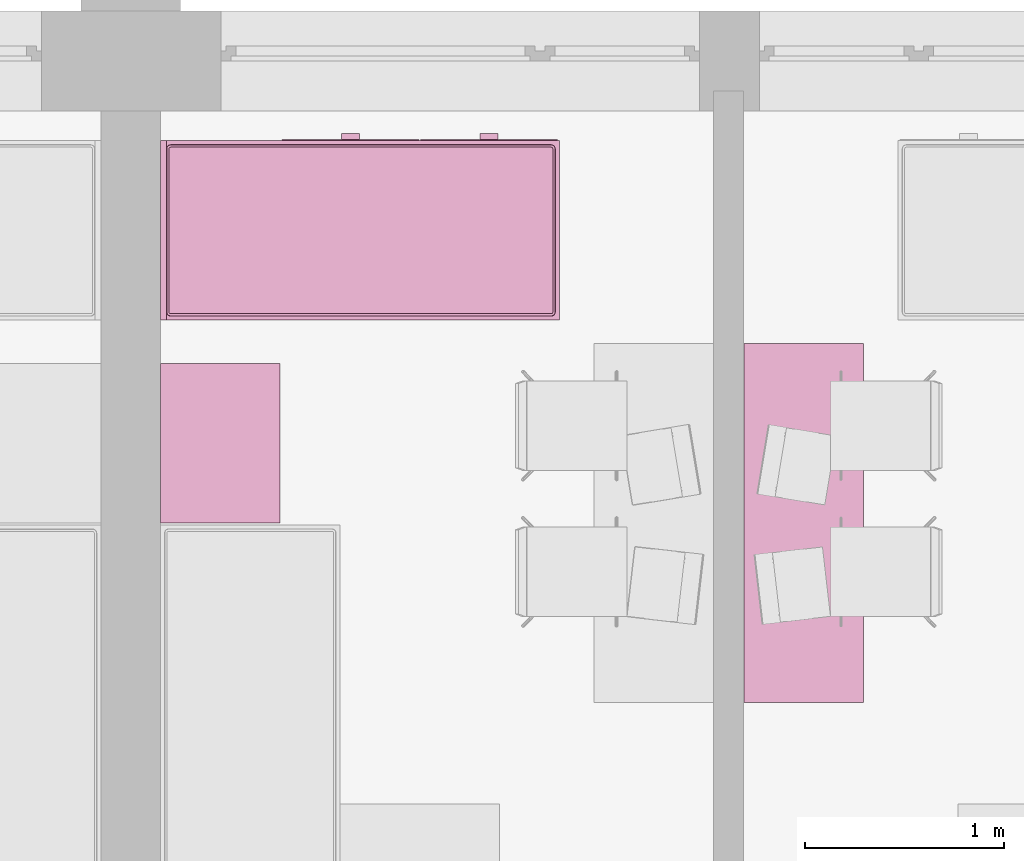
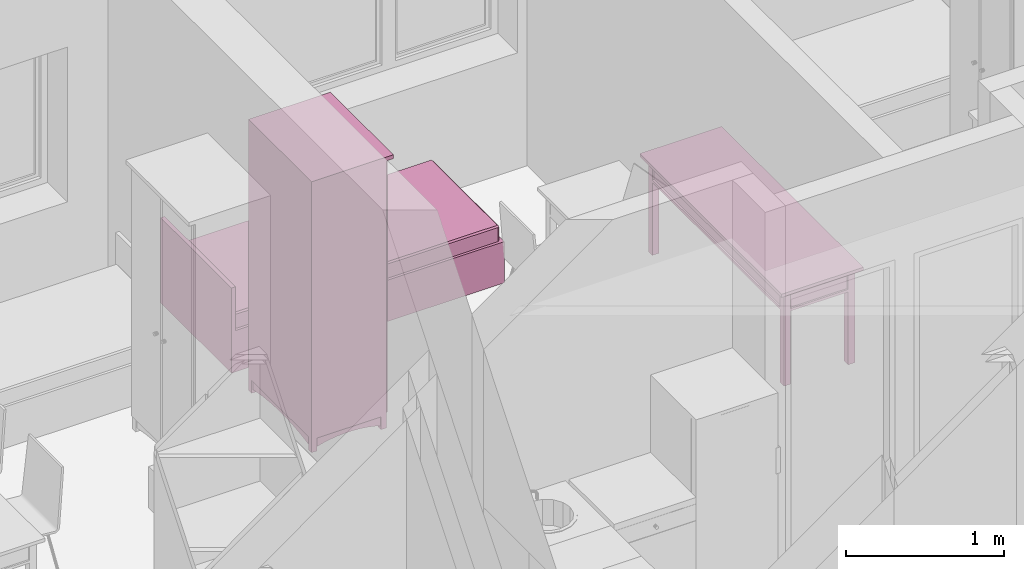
# One storey, part 138 of 165: 3 furnishings.
"""IFC2X3 building model written with IfcOpenShell, lengths in millimetres."""

from ifc_helpers import new_model, entity, si_unit, converted_unit, money_unit, direction, frame, origin_with_axes, place, context, subcontext, project, spatial, faceted_brep, source, transform, mapped, material, material_list, type_object, element, save


model = new_model("IFC2X3")

# Units and contexts
model_context = context("Model", 3, precision=1e-05, world=origin_with_axes(), true_north=direction((0.0, 1.0)))
body_context = subcontext(model_context, "Body", "Model", "MODEL_VIEW")
ifc_project = project(units=[si_unit("LENGTHUNIT", "METRE", prefix="MILLI"), si_unit("AREAUNIT", "SQUARE_METRE"), si_unit("VOLUMEUNIT", "CUBIC_METRE"), converted_unit("PLANEANGLEUNIT", "DEGREE", entity("IfcPlaneAngleMeasure", 0.0174532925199), si_unit("PLANEANGLEUNIT", "RADIAN"), dimensions=[0, 0, 0, 0, 0, 0, 0]), si_unit("SOLIDANGLEUNIT", "STERADIAN"), money_unit("USD"), converted_unit("TIMEUNIT", "Year", entity("IfcTimeMeasure", 31556926.0), si_unit("TIMEUNIT", "SECOND"), dimensions=[0, 0, 0, 0, 0, 0, 0]), si_unit("MASSUNIT", "GRAM"), si_unit("THERMODYNAMICTEMPERATUREUNIT", "DEGREE_CELSIUS"), si_unit("LUMINOUSINTENSITYUNIT", "LUMEN")], contexts=[model_context])

# Site, building, storey
site_placement = place(None, origin_with_axes())
site = spatial("IfcSite", under=ifc_project, at=site_placement, Name="Site", CompositionType="ELEMENT")
building_placement = place(site_placement, origin_with_axes())
building = spatial("IfcBuilding", under=site, at=building_placement, Name="Building", CompositionType="ELEMENT")
storey_placement = place(building_placement, frame((0.0, 0.0, 6300.0), z_axis=(0.0, 0.0, 1.0), x_axis=(1.0, 0.0, 0.0)))
storey = spatial("IfcBuildingStorey", under=building, at=storey_placement, Name="4KORRUS", CompositionType="ELEMENT", Elevation=6300.0)

# Furnishings
ifc_material = material(Name="Background")
ifc_material_list = material_list([ifc_material])
furnishing_element_type_1 = type_object("IfcFurnishingElementType", Name="Bed 19")
shared_shape_1 = source(origin_with_axes(), body_context, "Body", "Brep", [
    faceted_brep([(900.0, 1970.0, 0.0), (0.0, 1970.0, 0.0), (0.0, 2000.0, 0.0), (900.0, 2000.0, 0.0), (900.0, 1970.0, 660.0), (0.0, 1970.0, 660.0), (0.0, 2000.0, 660.0), (900.0, 2000.0, 660.0)], [[[0, 1, 2, 3]], [[1, 0, 4, 5]], [[2, 1, 5, 6]], [[3, 2, 6, 7]], [[0, 3, 7, 4]], [[5, 4, 7, 6]]]),
    faceted_brep([(900.0, 0.0, 0.0), (0.0, 0.0, 0.0), (0.0, 1970.0, 0.0), (900.0, 1970.0, 0.0), (900.0, 0.0, 320.0), (0.0, 0.0, 320.0), (0.0, 1970.0, 320.0), (900.0, 1970.0, 320.0)], [[[0, 1, 2, 3]], [[1, 0, 4, 5]], [[2, 1, 5, 6]], [[3, 2, 6, 7]], [[0, 3, 7, 4]], [[5, 4, 7, 6]]]),
    faceted_brep([(905.0, 10.0, 30.0), (900.0, 10.0, 30.0), (900.0, 695.0, 30.0), (905.0, 695.0, 30.0), (905.0, 10.0, 290.0), (900.0, 10.0, 290.0), (900.0, 695.0, 290.0), (905.0, 695.0, 290.0)], [[[0, 1, 2, 3]], [[1, 0, 4, 5]], [[2, 1, 5, 6]], [[3, 2, 6, 7]], [[0, 3, 7, 4]], [[5, 4, 7, 6]]]),
    faceted_brep([(935.0, 307.5, 150.0), (905.0, 307.5, 150.0), (905.0, 397.5, 150.0), (935.0, 397.5, 150.0), (935.0, 307.5, 170.0), (905.0, 307.5, 170.0), (905.0, 397.5, 170.0), (935.0, 397.5, 170.0)], [[[0, 1, 2, 3]], [[1, 0, 4, 5]], [[2, 1, 5, 6]], [[3, 2, 6, 7]], [[0, 3, 7, 4]], [[5, 4, 7, 6]]]),
    faceted_brep([(905.0, 705.0, 30.0), (900.0, 705.0, 30.0), (900.0, 1390.0, 30.0), (905.0, 1390.0, 30.0), (905.0, 705.0, 290.0), (900.0, 705.0, 290.0), (900.0, 1390.0, 290.0), (905.0, 1390.0, 290.0)], [[[0, 1, 2, 3]], [[1, 0, 4, 5]], [[2, 1, 5, 6]], [[3, 2, 6, 7]], [[0, 3, 7, 4]], [[5, 4, 7, 6]]]),
    faceted_brep([(935.0, 1002.5, 150.0), (905.0, 1002.5, 150.0), (905.0, 1092.5, 150.0), (935.0, 1092.5, 150.0), (935.0, 1002.5, 170.0), (905.0, 1002.5, 170.0), (905.0, 1092.5, 170.0), (935.0, 1092.5, 170.0)], [[[0, 1, 2, 3]], [[1, 0, 4, 5]], [[2, 1, 5, 6]], [[3, 2, 6, 7]], [[0, 3, 7, 4]], [[5, 4, 7, 6]]]),
    faceted_brep([(20.0, 40.0, 350.0), (20.0, 1950.0, 350.0), (21.522, 1957.654, 350.0), (25.858, 1964.142, 350.0), (32.346, 1968.478, 350.0), (40.0, 1970.0, 350.0), (860.0, 1970.0, 350.0), (867.654, 1968.478, 350.0), (874.142, 1964.142, 350.0), (878.478, 1957.654, 350.0), (880.0, 1950.0, 350.0), (880.0, 40.0, 350.0), (878.478, 32.346, 350.0), (874.142, 25.858, 350.0), (867.654, 21.522, 350.0), (860.0, 20.0, 350.0), (40.0, 20.0, 350.0), (32.346, 21.522, 350.0), (25.858, 25.858, 350.0), (21.522, 32.346, 350.0), (20.0, 40.0, 420.0), (20.0, 1950.0, 420.0), (21.522, 1957.654, 420.0), (25.858, 1964.142, 420.0), (32.346, 1968.478, 420.0), (40.0, 1970.0, 420.0), (860.0, 1970.0, 420.0), (867.654, 1968.478, 420.0), (874.142, 1964.142, 420.0), (878.478, 1957.654, 420.0), (880.0, 1950.0, 420.0), (880.0, 40.0, 420.0), (878.478, 32.346, 420.0), (874.142, 25.858, 420.0), (867.654, 21.522, 420.0), (860.0, 20.0, 420.0), (40.0, 20.0, 420.0), (32.346, 21.522, 420.0), (25.858, 25.858, 420.0), (21.522, 32.346, 420.0), (21.522, 40.15, 427.654), (21.522, 1949.85, 427.654), (22.956, 1957.06, 427.654), (26.955, 1963.045, 427.654), (32.94, 1967.044, 427.654), (40.15, 1968.478, 427.654), (859.85, 1968.478, 427.654), (867.06, 1967.044, 427.654), (873.045, 1963.045, 427.654), (877.044, 1957.06, 427.654), (878.478, 1949.85, 427.654), (878.478, 40.15, 427.654), (877.044, 32.94, 427.654), (873.045, 26.955, 427.654), (867.06, 22.956, 427.654), (859.85, 21.522, 427.654), (40.15, 21.522, 427.654), (32.94, 22.956, 427.654), (26.955, 26.955, 427.654), (22.956, 32.94, 427.654), (32.346, 41.216, 438.478), (32.346, 1948.784, 438.478), (33.152, 1952.836, 438.478), (34.759, 1955.241, 438.478), (37.164, 1956.848, 438.478), (41.216, 1957.654, 438.478), (858.784, 1957.654, 438.478), (862.836, 1956.848, 438.478), (865.241, 1955.241, 438.478), (866.848, 1952.836, 438.478), (867.654, 1948.784, 438.478), (867.654, 41.216, 438.478), (866.848, 37.164, 438.478), (865.241, 34.759, 438.478), (862.836, 33.152, 438.478), (858.784, 32.346, 438.478), (41.216, 32.346, 438.478), (37.164, 33.152, 438.478), (34.759, 34.759, 438.478), (33.152, 37.164, 438.478), (40.0, 41.97, 440.0), (40.0, 1948.03, 440.0), (40.327, 1949.673, 440.0), (40.0, 1950.0, 439.924), (41.97, 1950.0, 440.0), (858.03, 1950.0, 440.0), (859.673, 1949.673, 440.0), (860.0, 1950.0, 439.924), (860.0, 1948.03, 440.0), (860.0, 41.97, 440.0), (859.673, 40.327, 440.0), (860.0, 40.0, 439.924), (858.03, 40.0, 440.0), (41.97, 40.0, 440.0), (40.327, 40.327, 440.0), (40.0, 40.0, 439.924)], [[[0, 1, 2, 3, 4, 5, 6, 7, 8, 9, 10, 11, 12, 13, 14, 15, 16, 17, 18, 19]], [[1, 0, 20, 21]], [[2, 1, 21, 22]], [[3, 2, 22, 23]], [[4, 3, 23, 24]], [[5, 4, 24, 25]], [[6, 5, 25, 26]], [[7, 6, 26, 27]], [[8, 7, 27, 28]], [[9, 8, 28, 29]], [[10, 9, 29, 30]], [[11, 10, 30, 31]], [[12, 11, 31, 32]], [[13, 12, 32, 33]], [[14, 13, 33, 34]], [[15, 14, 34, 35]], [[16, 15, 35, 36]], [[17, 16, 36, 37]], [[18, 17, 37, 38]], [[19, 18, 38, 39]], [[0, 19, 39, 20]], [[21, 20, 40, 41]], [[22, 21, 41, 42]], [[23, 22, 42, 43]], [[24, 23, 43, 44]], [[25, 24, 44, 45]], [[26, 25, 45, 46]], [[27, 26, 46, 47]], [[28, 27, 47, 48]], [[29, 28, 48, 49]], [[30, 29, 49, 50]], [[31, 30, 50, 51]], [[32, 31, 51, 52]], [[33, 32, 52, 53]], [[34, 33, 53, 54]], [[35, 34, 54, 55]], [[36, 35, 55, 56]], [[37, 36, 56, 57]], [[38, 37, 57, 58]], [[39, 38, 58, 59]], [[20, 39, 59, 40]], [[41, 40, 60, 61]], [[42, 41, 61, 62]], [[43, 42, 62, 63]], [[44, 43, 63, 64]], [[45, 44, 64, 65]], [[46, 45, 65, 66]], [[47, 46, 66, 67]], [[48, 47, 67, 68]], [[49, 48, 68, 69]], [[50, 49, 69, 70]], [[51, 50, 70, 71]], [[52, 51, 71, 72]], [[53, 52, 72, 73]], [[54, 53, 73, 74]], [[55, 54, 74, 75]], [[56, 55, 75, 76]], [[57, 56, 76, 77]], [[58, 57, 77, 78]], [[59, 58, 78, 79]], [[40, 59, 79, 60]], [[61, 60, 80, 81]], [[62, 61, 81, 82, 83]], [[63, 62, 83]], [[64, 63, 83]], [[65, 64, 83, 82, 84]], [[66, 65, 84, 85]], [[67, 66, 85, 86, 87]], [[68, 67, 87]], [[69, 68, 87]], [[70, 69, 87, 86, 88]], [[71, 70, 88, 89]], [[72, 71, 89, 90, 91]], [[73, 72, 91]], [[74, 73, 91]], [[75, 74, 91, 90, 92]], [[76, 75, 92, 93]], [[77, 76, 93, 94, 95]], [[78, 77, 95]], [[79, 78, 95]], [[60, 79, 95, 94, 80]], [[81, 80, 94, 93, 92, 90, 89, 88, 86, 85, 84, 82]]]),
    faceted_brep([(20.0, 40.0, 350.0), (21.522, 32.346, 350.0), (25.858, 25.858, 350.0), (32.346, 21.522, 350.0), (40.0, 20.0, 350.0), (860.0, 20.0, 350.0), (867.654, 21.522, 350.0), (874.142, 25.858, 350.0), (878.478, 32.346, 350.0), (880.0, 40.0, 350.0), (880.0, 1950.0, 350.0), (878.478, 1957.654, 350.0), (874.142, 1964.142, 350.0), (867.654, 1968.478, 350.0), (860.0, 1970.0, 350.0), (40.0, 1970.0, 350.0), (32.346, 1968.478, 350.0), (25.858, 1964.142, 350.0), (21.522, 1957.654, 350.0), (20.0, 1950.0, 350.0), (20.0, 40.0, 320.0), (21.522, 32.346, 320.0), (25.858, 25.858, 320.0), (32.346, 21.522, 320.0), (40.0, 20.0, 320.0), (860.0, 20.0, 320.0), (867.654, 21.522, 320.0), (874.142, 25.858, 320.0), (878.478, 32.346, 320.0), (880.0, 40.0, 320.0), (880.0, 1950.0, 320.0), (878.478, 1957.654, 320.0), (874.142, 1964.142, 320.0), (867.654, 1968.478, 320.0), (860.0, 1970.0, 320.0), (40.0, 1970.0, 320.0), (32.346, 1968.478, 320.0), (25.858, 1964.142, 320.0), (21.522, 1957.654, 320.0), (20.0, 1950.0, 320.0)], [[[0, 1, 2, 3, 4, 5, 6, 7, 8, 9, 10, 11, 12, 13, 14, 15, 16, 17, 18, 19]], [[0, 20, 21, 1]], [[1, 21, 22, 2]], [[2, 22, 23, 3]], [[3, 23, 24, 4]], [[4, 24, 25, 5]], [[5, 25, 26, 6]], [[6, 26, 27, 7]], [[7, 27, 28, 8]], [[8, 28, 29, 9]], [[9, 29, 30, 10]], [[10, 30, 31, 11]], [[11, 31, 32, 12]], [[12, 32, 33, 13]], [[13, 33, 34, 14]], [[14, 34, 35, 15]], [[15, 35, 36, 16]], [[16, 36, 37, 17]], [[17, 37, 38, 18]], [[18, 38, 39, 19]], [[19, 39, 20, 0]], [[20, 39, 38, 37, 36, 35, 34, 33, 32, 31, 30, 29, 28, 27, 26, 25, 24, 23, 22, 21]]]),
])
furnishing_1_placement = place(storey_placement, frame((8009.70329669, -6189.6041535, 0.0), z_axis=(0.0, 0.0, 1.0), x_axis=(0.0, 1.0, 0.0)))
element("IfcFurnishingElement", 1, at=furnishing_1_placement, inside=storey, type_object=furnishing_element_type_1, material=ifc_material_list, Name="FU - 013", context=body_context, shape_type="MappedRepresentation", body=[
    mapped(shared_shape_1, transform((0.0, 0.0, 0.0))),
])
furnishing_element_type_2 = type_object("IfcFurnishingElementType", Name="Cupboard 19")
shared_shape_2 = source(origin_with_axes(), body_context, "Body", "Brep", [
    faceted_brep([(780.0, 600.0, 120.0), (780.0, 600.0, 2050.0), (780.0, 580.0, 2050.0), (780.0, 580.0, 120.0), (20.0, 600.0, 120.0), (20.0, 600.0, 2050.0), (20.0, 580.0, 2050.0), (20.0, 580.0, 120.0)], [[[0, 1, 2, 3]], [[4, 5, 1, 0]], [[1, 5, 6, 2]], [[3, 2, 6, 7]], [[0, 3, 7, 4]], [[7, 6, 5, 4]]]),
    faceted_brep([(0.0, 50.0, 100.0), (0.0, 600.0, 100.0), (20.0, 600.0, 100.0), (20.0, 50.0, 100.0), (0.0, 50.0, 2070.0), (0.0, 600.0, 2070.0), (20.0, 600.0, 2070.0), (20.0, 50.0, 2070.0)], [[[0, 1, 2, 3]], [[0, 4, 5, 1]], [[1, 5, 6, 2]], [[2, 6, 7, 3]], [[3, 7, 4, 0]], [[7, 6, 5, 4]]]),
    faceted_brep([(780.0, 50.0, 100.0), (780.0, 600.0, 100.0), (800.0, 600.0, 100.0), (800.0, 50.0, 100.0), (780.0, 50.0, 2070.0), (780.0, 600.0, 2070.0), (800.0, 600.0, 2070.0), (800.0, 50.0, 2070.0)], [[[0, 1, 2, 3]], [[0, 4, 5, 1]], [[1, 5, 6, 2]], [[2, 6, 7, 3]], [[3, 7, 4, 0]], [[7, 6, 5, 4]]]),
    faceted_brep([(20.0, 50.0, 100.0), (20.0, 600.0, 100.0), (780.0, 600.0, 100.0), (780.0, 50.0, 100.0), (20.0, 50.0, 120.0), (20.0, 600.0, 120.0), (780.0, 600.0, 120.0), (780.0, 50.0, 120.0)], [[[0, 1, 2, 3]], [[0, 4, 5, 1]], [[1, 5, 6, 2]], [[2, 6, 7, 3]], [[3, 7, 4, 0]], [[7, 6, 5, 4]]]),
    faceted_brep([(20.0, 50.0, 2050.0), (20.0, 600.0, 2050.0), (780.0, 600.0, 2050.0), (780.0, 50.0, 2050.0), (20.0, 50.0, 2070.0), (20.0, 600.0, 2070.0), (780.0, 600.0, 2070.0), (780.0, 50.0, 2070.0)], [[[0, 1, 2, 3]], [[0, 4, 5, 1]], [[1, 5, 6, 2]], [[2, 6, 7, 3]], [[3, 7, 4, 0]], [[7, 6, 5, 4]]]),
    faceted_brep([(0.0, 600.0, 2070.0), (0.0, 0.0, 2070.0), (0.0, 0.0, 2100.0), (0.0, 600.0, 2100.0), (800.0, 600.0, 2070.0), (800.0, 0.0, 2070.0), (800.0, 0.0, 2100.0), (800.0, 600.0, 2100.0)], [[[0, 1, 2, 3]], [[0, 4, 5, 1]], [[1, 5, 6, 2]], [[3, 2, 6, 7]], [[4, 0, 3, 7]], [[5, 4, 7, 6]]]),
    faceted_brep([(760.0, 590.0, 25.0), (760.0, 570.0, 25.0), (640.962, 570.0, 45.8), (640.962, 590.0, 45.8), (760.0, 590.0, 100.0), (760.0, 570.0, 100.0), (40.0, 570.0, 100.0), (40.0, 570.0, 25.0), (159.038, 570.0, 45.8), (279.23, 570.0, 58.32), (400.0, 570.0, 62.5), (520.77, 570.0, 58.32), (520.77, 590.0, 58.32), (400.0, 590.0, 62.5), (279.23, 590.0, 58.32), (159.038, 590.0, 45.8), (40.0, 590.0, 25.0), (40.0, 590.0, 100.0)], [[[0, 1, 2, 3]], [[4, 5, 1, 0]], [[1, 5, 6, 7, 8, 9, 10, 11, 2]], [[3, 2, 11, 12]], [[0, 3, 12, 13, 14, 15, 16, 17, 4]], [[17, 6, 5, 4]], [[16, 7, 6, 17]], [[15, 8, 7, 16]], [[14, 9, 8, 15]], [[13, 10, 9, 14]], [[12, 11, 10, 13]]]),
    faceted_brep([(760.0, 80.0, 25.0), (760.0, 60.0, 25.0), (640.962, 60.0, 45.8), (640.962, 80.0, 45.8), (760.0, 80.0, 100.0), (760.0, 60.0, 100.0), (40.0, 60.0, 100.0), (40.0, 60.0, 25.0), (159.038, 60.0, 45.8), (279.23, 60.0, 58.32), (400.0, 60.0, 62.5), (520.77, 60.0, 58.32), (520.77, 80.0, 58.32), (400.0, 80.0, 62.5), (279.23, 80.0, 58.32), (159.038, 80.0, 45.8), (40.0, 80.0, 25.0), (40.0, 80.0, 100.0)], [[[0, 1, 2, 3]], [[4, 5, 1, 0]], [[1, 5, 6, 7, 8, 9, 10, 11, 2]], [[3, 2, 11, 12]], [[0, 3, 12, 13, 14, 15, 16, 17, 4]], [[17, 6, 5, 4]], [[16, 7, 6, 17]], [[15, 8, 7, 16]], [[14, 9, 8, 15]], [[13, 10, 9, 14]], [[12, 11, 10, 13]]]),
    faceted_brep([(790.0, 90.0, 25.0), (770.0, 90.0, 25.0), (770.0, 141.266, 38.072), (790.0, 141.266, 38.072), (790.0, 90.0, 100.0), (770.0, 90.0, 100.0), (770.0, 560.0, 100.0), (770.0, 560.0, 25.0), (770.0, 508.734, 38.072), (770.0, 456.752, 47.92), (770.0, 404.257, 54.508), (770.0, 351.453, 57.808), (770.0, 298.547, 57.808), (770.0, 245.743, 54.508), (770.0, 193.248, 47.92), (790.0, 193.248, 47.92), (790.0, 245.743, 54.508), (790.0, 298.547, 57.808), (790.0, 351.453, 57.808), (790.0, 404.257, 54.508), (790.0, 456.752, 47.92), (790.0, 508.734, 38.072), (790.0, 560.0, 25.0), (790.0, 560.0, 100.0)], [[[0, 1, 2, 3]], [[4, 5, 1, 0]], [[1, 5, 6, 7, 8, 9, 10, 11, 12, 13, 14, 2]], [[3, 2, 14, 15]], [[0, 3, 15, 16, 17, 18, 19, 20, 21, 22, 23, 4]], [[23, 6, 5, 4]], [[22, 7, 6, 23]], [[21, 8, 7, 22]], [[20, 9, 8, 21]], [[19, 10, 9, 20]], [[18, 11, 10, 19]], [[17, 12, 11, 18]], [[16, 13, 12, 17]], [[15, 14, 13, 16]]]),
    faceted_brep([(30.0, 90.0, 25.0), (10.0, 90.0, 25.0), (10.0, 141.266, 38.072), (30.0, 141.266, 38.072), (30.0, 90.0, 100.0), (10.0, 90.0, 100.0), (10.0, 560.0, 100.0), (10.0, 560.0, 25.0), (10.0, 508.734, 38.072), (10.0, 456.752, 47.92), (10.0, 404.257, 54.508), (10.0, 351.453, 57.808), (10.0, 298.547, 57.808), (10.0, 245.743, 54.508), (10.0, 193.248, 47.92), (30.0, 193.248, 47.92), (30.0, 245.743, 54.508), (30.0, 298.547, 57.808), (30.0, 351.453, 57.808), (30.0, 404.257, 54.508), (30.0, 456.752, 47.92), (30.0, 508.734, 38.072), (30.0, 560.0, 25.0), (30.0, 560.0, 100.0)], [[[0, 1, 2, 3]], [[4, 5, 1, 0]], [[1, 5, 6, 7, 8, 9, 10, 11, 12, 13, 14, 2]], [[3, 2, 14, 15]], [[0, 3, 15, 16, 17, 18, 19, 20, 21, 22, 23, 4]], [[23, 6, 5, 4]], [[22, 7, 6, 23]], [[21, 8, 7, 22]], [[20, 9, 8, 21]], [[19, 10, 9, 20]], [[18, 11, 10, 19]], [[17, 12, 11, 18]], [[16, 13, 12, 17]], [[15, 14, 13, 16]]]),
    faceted_brep([(760.0, 560.0, 0.0), (760.0, 560.0, 100.0), (760.0, 600.0, 100.0), (760.0, 600.0, 0.0), (800.0, 560.0, 0.0), (800.0, 560.0, 100.0), (800.0, 600.0, 100.0), (800.0, 600.0, 0.0)], [[[0, 1, 2, 3]], [[4, 5, 1, 0]], [[1, 5, 6, 2]], [[3, 2, 6, 7]], [[0, 3, 7, 4]], [[7, 6, 5, 4]]]),
    faceted_brep([(0.0, 560.0, 0.0), (0.0, 560.0, 100.0), (0.0, 600.0, 100.0), (0.0, 600.0, 0.0), (40.0, 560.0, 0.0), (40.0, 560.0, 100.0), (40.0, 600.0, 100.0), (40.0, 600.0, 0.0)], [[[0, 1, 2, 3]], [[4, 5, 1, 0]], [[1, 5, 6, 2]], [[3, 2, 6, 7]], [[0, 3, 7, 4]], [[7, 6, 5, 4]]]),
    faceted_brep([(760.0, 50.0, 0.0), (760.0, 50.0, 100.0), (760.0, 90.0, 100.0), (760.0, 90.0, 0.0), (800.0, 50.0, 0.0), (800.0, 50.0, 100.0), (800.0, 90.0, 100.0), (800.0, 90.0, 0.0)], [[[0, 1, 2, 3]], [[4, 5, 1, 0]], [[1, 5, 6, 2]], [[3, 2, 6, 7]], [[0, 3, 7, 4]], [[7, 6, 5, 4]]]),
    faceted_brep([(0.0, 50.0, 0.0), (0.0, 50.0, 100.0), (0.0, 90.0, 100.0), (0.0, 90.0, 0.0), (40.0, 50.0, 0.0), (40.0, 50.0, 100.0), (40.0, 90.0, 100.0), (40.0, 90.0, 0.0)], [[[0, 1, 2, 3]], [[4, 5, 1, 0]], [[1, 5, 6, 2]], [[3, 2, 6, 7]], [[0, 3, 7, 4]], [[7, 6, 5, 4]]]),
    faceted_brep([(780.0, 580.0, 587.5), (780.0, 580.0, 607.5), (780.0, 50.0, 607.5), (780.0, 50.0, 587.5), (20.0, 580.0, 587.5), (20.0, 580.0, 607.5), (20.0, 50.0, 607.5), (20.0, 50.0, 587.5)], [[[0, 1, 2, 3]], [[4, 5, 1, 0]], [[1, 5, 6, 2]], [[3, 2, 6, 7]], [[0, 3, 7, 4]], [[7, 6, 5, 4]]]),
    faceted_brep([(780.0, 580.0, 1075.0), (780.0, 580.0, 1095.0), (780.0, 50.0, 1095.0), (780.0, 50.0, 1075.0), (20.0, 580.0, 1075.0), (20.0, 580.0, 1095.0), (20.0, 50.0, 1095.0), (20.0, 50.0, 1075.0)], [[[0, 1, 2, 3]], [[4, 5, 1, 0]], [[1, 5, 6, 2]], [[3, 2, 6, 7]], [[0, 3, 7, 4]], [[7, 6, 5, 4]]]),
    faceted_brep([(780.0, 580.0, 1562.5), (780.0, 580.0, 1582.5), (780.0, 50.0, 1582.5), (780.0, 50.0, 1562.5), (20.0, 580.0, 1562.5), (20.0, 580.0, 1582.5), (20.0, 50.0, 1582.5), (20.0, 50.0, 1562.5)], [[[0, 1, 2, 3]], [[4, 5, 1, 0]], [[1, 5, 6, 2]], [[3, 2, 6, 7]], [[0, 3, 7, 4]], [[7, 6, 5, 4]]]),
    faceted_brep([(789.5, 50.0, 110.5), (400.5, 50.0, 110.5), (400.5, 50.0, 2059.5), (789.5, 50.0, 2059.5), (789.5, 40.0, 110.5), (400.5, 40.0, 110.5), (400.5, 40.0, 2059.5), (789.5, 40.0, 2059.5), (779.5, 30.0, 120.5), (410.5, 30.0, 120.5), (410.5, 30.0, 2049.5), (779.5, 30.0, 2049.5)], [[[0, 1, 2, 3]], [[0, 4, 5, 1]], [[1, 5, 6, 2]], [[2, 6, 7, 3]], [[3, 7, 4, 0]], [[4, 8, 9, 5]], [[5, 9, 10, 6]], [[6, 10, 11, 7]], [[7, 11, 8, 4]], [[10, 9, 8, 11]]]),
    faceted_brep([(399.5, 50.0, 110.5), (10.5, 50.0, 110.5), (10.5, 50.0, 2059.5), (399.5, 50.0, 2059.5), (399.5, 40.0, 110.5), (10.5, 40.0, 110.5), (10.5, 40.0, 2059.5), (399.5, 40.0, 2059.5), (389.5, 30.0, 120.5), (20.5, 30.0, 120.5), (20.5, 30.0, 2049.5), (389.5, 30.0, 2049.5)], [[[0, 1, 2, 3]], [[0, 4, 5, 1]], [[1, 5, 6, 2]], [[2, 6, 7, 3]], [[3, 7, 4, 0]], [[4, 8, 9, 5]], [[5, 9, 10, 6]], [[6, 10, 11, 7]], [[7, 11, 8, 4]], [[10, 9, 8, 11]]]),
    faceted_brep([(339.608, 30.0, 954.0), (338.0, 30.0, 960.0), (339.608, 30.0, 966.0), (344.0, 30.0, 970.392), (350.0, 30.0, 972.0), (356.0, 30.0, 970.392), (360.392, 30.0, 966.0), (362.0, 30.0, 960.0), (360.392, 30.0, 954.0), (356.0, 30.0, 949.608), (350.0, 30.0, 948.0), (344.0, 30.0, 949.608), (339.608, 5.0, 954.0), (338.0, 5.0, 960.0), (339.608, 5.0, 966.0), (344.0, 5.0, 970.392), (350.0, 5.0, 972.0), (356.0, 5.0, 970.392), (360.392, 5.0, 966.0), (362.0, 5.0, 960.0), (360.392, 5.0, 954.0), (356.0, 5.0, 949.608), (350.0, 5.0, 948.0), (344.0, 5.0, 949.608)], [[[0, 1, 2, 3, 4, 5, 6, 7, 8, 9, 10, 11]], [[0, 12, 13, 1]], [[1, 13, 14, 2]], [[2, 14, 15, 3]], [[3, 15, 16, 4]], [[4, 16, 17, 5]], [[5, 17, 18, 6]], [[6, 18, 19, 7]], [[7, 19, 20, 8]], [[8, 20, 21, 9]], [[9, 21, 22, 10]], [[10, 22, 23, 11]], [[11, 23, 12, 0]], [[12, 23, 22, 21, 20, 19, 18, 17, 16, 15, 14, 13]]]),
    faceted_brep([(460.392, 30.0, 954.0), (456.0, 30.0, 949.608), (450.0, 30.0, 948.0), (444.0, 30.0, 949.608), (439.608, 30.0, 954.0), (438.0, 30.0, 960.0), (439.608, 30.0, 966.0), (444.0, 30.0, 970.392), (450.0, 30.0, 972.0), (456.0, 30.0, 970.392), (460.392, 30.0, 966.0), (462.0, 30.0, 960.0), (460.392, 5.0, 954.0), (456.0, 5.0, 949.608), (450.0, 5.0, 948.0), (444.0, 5.0, 949.608), (439.608, 5.0, 954.0), (438.0, 5.0, 960.0), (439.608, 5.0, 966.0), (444.0, 5.0, 970.392), (450.0, 5.0, 972.0), (456.0, 5.0, 970.392), (460.392, 5.0, 966.0), (462.0, 5.0, 960.0)], [[[0, 1, 2, 3, 4, 5, 6, 7, 8, 9, 10, 11]], [[1, 0, 12, 13]], [[2, 1, 13, 14]], [[3, 2, 14, 15]], [[4, 3, 15, 16]], [[5, 4, 16, 17]], [[6, 5, 17, 18]], [[7, 6, 18, 19]], [[8, 7, 19, 20]], [[9, 8, 20, 21]], [[10, 9, 21, 22]], [[11, 10, 22, 23]], [[0, 11, 23, 12]], [[12, 23, 22, 21, 20, 19, 18, 17, 16, 15, 14, 13]]]),
])
furnishing_2_placement = place(storey_placement, frame((6609.70329669, -7206.41563755, 0.0), z_axis=(0.0, 0.0, 1.0), x_axis=(0.0, 1.0, 0.0)))
element("IfcFurnishingElement", 2, at=furnishing_2_placement, inside=storey, type_object=furnishing_element_type_2, material=ifc_material_list, Name="FU - 014", context=body_context, shape_type="MappedRepresentation", body=[
    mapped(shared_shape_2, transform((0.0, 0.0, 0.0))),
])
furnishing_element_type_3 = type_object("IfcFurnishingElementType", Name="Rectangular Table 01 19")
shared_shape_3 = source(origin_with_axes(), body_context, "Body", "Brep", [
    faceted_brep([(-90.0, 40.0, 0.0), (-90.0, 90.0, 0.0), (-40.0, 90.0, 0.0), (-40.0, 40.0, 0.0), (-90.0, 40.0, 725.0), (-90.0, 90.0, 725.0), (-40.0, 90.0, 725.0), (-40.0, 40.0, 725.0)], [[[0, 1, 2, 3]], [[0, 4, 5, 1]], [[1, 5, 6, 2]], [[2, 6, 7, 3]], [[3, 7, 4, 0]], [[7, 6, 5, 4]]]),
    faceted_brep([(-1760.0, 40.0, 0.0), (-1760.0, 90.0, 0.0), (-1710.0, 90.0, 0.0), (-1710.0, 40.0, 0.0), (-1760.0, 40.0, 725.0), (-1760.0, 90.0, 725.0), (-1710.0, 90.0, 725.0), (-1710.0, 40.0, 725.0)], [[[0, 1, 2, 3]], [[0, 4, 5, 1]], [[1, 5, 6, 2]], [[2, 6, 7, 3]], [[3, 7, 4, 0]], [[7, 6, 5, 4]]]),
    faceted_brep([(-90.0, 510.0, 0.0), (-90.0, 560.0, 0.0), (-40.0, 560.0, 0.0), (-40.0, 510.0, 0.0), (-90.0, 510.0, 725.0), (-90.0, 560.0, 725.0), (-40.0, 560.0, 725.0), (-40.0, 510.0, 725.0)], [[[0, 1, 2, 3]], [[0, 4, 5, 1]], [[1, 5, 6, 2]], [[2, 6, 7, 3]], [[3, 7, 4, 0]], [[7, 6, 5, 4]]]),
    faceted_brep([(-1760.0, 510.0, 0.0), (-1760.0, 560.0, 0.0), (-1710.0, 560.0, 0.0), (-1710.0, 510.0, 0.0), (-1760.0, 510.0, 725.0), (-1760.0, 560.0, 725.0), (-1710.0, 560.0, 725.0), (-1710.0, 510.0, 725.0)], [[[0, 1, 2, 3]], [[0, 4, 5, 1]], [[1, 5, 6, 2]], [[2, 6, 7, 3]], [[3, 7, 4, 0]], [[7, 6, 5, 4]]]),
    faceted_brep([(-1760.0, 40.0, 565.0), (-1760.0, 560.0, 565.0), (-40.0, 560.0, 565.0), (-40.0, 40.0, 565.0), (-1760.0, 40.0, 585.0), (-1760.0, 560.0, 585.0), (-40.0, 560.0, 585.0), (-40.0, 40.0, 585.0)], [[[0, 1, 2, 3]], [[0, 4, 5, 1]], [[1, 5, 6, 2]], [[2, 6, 7, 3]], [[3, 7, 4, 0]], [[7, 6, 5, 4]]]),
    faceted_brep([(-1710.0, 52.5, 585.0), (-1710.0, 77.5, 585.0), (-90.0, 77.5, 585.0), (-90.0, 52.5, 585.0), (-1710.0, 52.5, 745.0), (-1710.0, 77.5, 745.0), (-90.0, 77.5, 745.0), (-90.0, 52.5, 745.0)], [[[0, 1, 2, 3]], [[0, 4, 5, 1]], [[1, 5, 6, 2]], [[2, 6, 7, 3]], [[3, 7, 4, 0]], [[7, 6, 5, 4]]]),
    faceted_brep([(-77.5, 90.0, 585.0), (-77.5, 510.0, 585.0), (-52.5, 510.0, 585.0), (-52.5, 90.0, 585.0), (-77.5, 90.0, 745.0), (-77.5, 510.0, 745.0), (-52.5, 510.0, 745.0), (-52.5, 90.0, 745.0)], [[[0, 1, 2, 3]], [[0, 4, 5, 1]], [[1, 5, 6, 2]], [[2, 6, 7, 3]], [[3, 7, 4, 0]], [[7, 6, 5, 4]]]),
    faceted_brep([(-90.0, 547.5, 585.0), (-90.0, 522.5, 585.0), (-1710.0, 522.5, 585.0), (-1710.0, 547.5, 585.0), (-90.0, 547.5, 745.0), (-90.0, 522.5, 745.0), (-1710.0, 522.5, 745.0), (-1710.0, 547.5, 745.0)], [[[0, 1, 2, 3]], [[0, 4, 5, 1]], [[1, 5, 6, 2]], [[2, 6, 7, 3]], [[3, 7, 4, 0]], [[7, 6, 5, 4]]]),
    faceted_brep([(-1722.5, 510.0, 585.0), (-1722.5, 90.0, 585.0), (-1747.5, 90.0, 585.0), (-1747.5, 510.0, 585.0), (-1722.5, 510.0, 745.0), (-1722.5, 90.0, 745.0), (-1747.5, 90.0, 745.0), (-1747.5, 510.0, 745.0)], [[[0, 1, 2, 3]], [[0, 4, 5, 1]], [[1, 5, 6, 2]], [[2, 6, 7, 3]], [[3, 7, 4, 0]], [[7, 6, 5, 4]]]),
    faceted_brep([(-897.5, 40.0, 585.0), (-897.5, 60.0, 585.0), (-95.0, 60.0, 585.0), (-95.0, 40.0, 585.0), (-897.5, 40.0, 745.0), (-897.5, 60.0, 745.0), (-95.0, 60.0, 745.0), (-95.0, 40.0, 745.0)], [[[0, 1, 2, 3]], [[0, 4, 5, 1]], [[1, 5, 6, 2]], [[2, 6, 7, 3]], [[3, 7, 4, 0]], [[7, 6, 5, 4]]]),
    faceted_brep([(-1705.0, 40.0, 585.0), (-1705.0, 60.0, 585.0), (-902.5, 60.0, 585.0), (-902.5, 40.0, 585.0), (-1705.0, 40.0, 745.0), (-1705.0, 60.0, 745.0), (-902.5, 60.0, 745.0), (-902.5, 40.0, 745.0)], [[[0, 1, 2, 3]], [[0, 4, 5, 1]], [[1, 5, 6, 2]], [[2, 6, 7, 3]], [[3, 7, 4, 0]], [[7, 6, 5, 4]]]),
    faceted_brep([(-504.91, 40.0, 660.0), (-506.25, 40.0, 665.0), (-504.91, 40.0, 670.0), (-501.25, 40.0, 673.66), (-496.25, 40.0, 675.0), (-491.25, 40.0, 673.66), (-487.59, 40.0, 670.0), (-486.25, 40.0, 665.0), (-487.59, 40.0, 660.0), (-491.25, 40.0, 656.34), (-496.25, 40.0, 655.0), (-501.25, 40.0, 656.34), (-504.91, 25.0, 660.0), (-506.25, 25.0, 665.0), (-504.91, 25.0, 670.0), (-501.25, 25.0, 673.66), (-496.25, 25.0, 675.0), (-491.25, 25.0, 673.66), (-487.59, 25.0, 670.0), (-486.25, 25.0, 665.0), (-487.59, 25.0, 660.0), (-491.25, 25.0, 656.34), (-496.25, 25.0, 655.0), (-501.25, 25.0, 656.34)], [[[0, 1, 2, 3, 4, 5, 6, 7, 8, 9, 10, 11]], [[0, 12, 13, 1]], [[1, 13, 14, 2]], [[2, 14, 15, 3]], [[3, 15, 16, 4]], [[4, 16, 17, 5]], [[5, 17, 18, 6]], [[6, 18, 19, 7]], [[7, 19, 20, 8]], [[8, 20, 21, 9]], [[9, 21, 22, 10]], [[10, 22, 23, 11]], [[11, 23, 12, 0]], [[12, 23, 22, 21, 20, 19, 18, 17, 16, 15, 14, 13]]]),
    faceted_brep([(-506.25, 12.01, 665.0), (-504.91, 12.01, 660.0), (-496.25, 10.0, 665.0), (-513.571, 17.5, 665.0), (-511.25, 17.5, 656.34), (-501.25, 12.01, 656.34), (-504.91, 12.01, 670.0), (-516.25, 25.0, 665.0), (-513.571, 25.0, 655.0), (-504.91, 17.5, 650.0), (-511.25, 17.5, 673.66), (-496.25, 12.01, 655.0), (-501.25, 12.01, 673.66), (-513.571, 25.0, 675.0), (-506.25, 25.0, 682.321), (-496.25, 25.0, 685.0), (-486.25, 25.0, 682.321), (-478.929, 25.0, 675.0), (-476.25, 25.0, 665.0), (-478.929, 25.0, 655.0), (-486.25, 25.0, 647.679), (-496.25, 25.0, 645.0), (-506.25, 25.0, 647.679), (-496.25, 17.5, 647.679), (-504.91, 17.5, 680.0), (-491.25, 12.01, 656.34), (-496.25, 12.01, 675.0), (-496.25, 17.5, 682.321), (-487.59, 17.5, 680.0), (-481.25, 17.5, 673.66), (-478.929, 17.5, 665.0), (-481.25, 17.5, 656.34), (-487.59, 17.5, 650.0), (-487.59, 12.01, 660.0), (-491.25, 12.01, 673.66), (-487.59, 12.01, 670.0), (-486.25, 12.01, 665.0)], [[[0, 1, 2]], [[3, 4, 1, 0]], [[1, 5, 2]], [[6, 0, 2]], [[7, 8, 4, 3]], [[4, 9, 5, 1]], [[10, 3, 0, 6]], [[5, 11, 2]], [[12, 6, 2]], [[8, 7, 13, 14, 15, 16, 17, 18, 19, 20, 21, 22]], [[8, 22, 9, 4]], [[13, 7, 3, 10]], [[9, 23, 11, 5]], [[24, 10, 6, 12]], [[11, 25, 2]], [[26, 12, 2]], [[14, 13, 10, 24]], [[15, 14, 24, 27]], [[16, 15, 27, 28]], [[17, 16, 28, 29]], [[18, 17, 29, 30]], [[19, 18, 30, 31]], [[20, 19, 31, 32]], [[21, 20, 32, 23]], [[22, 21, 23, 9]], [[23, 32, 25, 11]], [[27, 24, 12, 26]], [[25, 33, 2]], [[34, 26, 2]], [[28, 27, 26, 34]], [[29, 28, 34, 35]], [[30, 29, 35, 36]], [[31, 30, 36, 33]], [[32, 31, 33, 25]], [[33, 36, 2]], [[35, 34, 2]], [[36, 35, 2]]]),
    faceted_brep([(-1312.41, 40.0, 660.0), (-1313.75, 40.0, 665.0), (-1312.41, 40.0, 670.0), (-1308.75, 40.0, 673.66), (-1303.75, 40.0, 675.0), (-1298.75, 40.0, 673.66), (-1295.09, 40.0, 670.0), (-1293.75, 40.0, 665.0), (-1295.09, 40.0, 660.0), (-1298.75, 40.0, 656.34), (-1303.75, 40.0, 655.0), (-1308.75, 40.0, 656.34), (-1312.41, 25.0, 660.0), (-1313.75, 25.0, 665.0), (-1312.41, 25.0, 670.0), (-1308.75, 25.0, 673.66), (-1303.75, 25.0, 675.0), (-1298.75, 25.0, 673.66), (-1295.09, 25.0, 670.0), (-1293.75, 25.0, 665.0), (-1295.09, 25.0, 660.0), (-1298.75, 25.0, 656.34), (-1303.75, 25.0, 655.0), (-1308.75, 25.0, 656.34)], [[[0, 1, 2, 3, 4, 5, 6, 7, 8, 9, 10, 11]], [[0, 12, 13, 1]], [[1, 13, 14, 2]], [[2, 14, 15, 3]], [[3, 15, 16, 4]], [[4, 16, 17, 5]], [[5, 17, 18, 6]], [[6, 18, 19, 7]], [[7, 19, 20, 8]], [[8, 20, 21, 9]], [[9, 21, 22, 10]], [[10, 22, 23, 11]], [[11, 23, 12, 0]], [[12, 23, 22, 21, 20, 19, 18, 17, 16, 15, 14, 13]]]),
    faceted_brep([(-1313.75, 12.01, 665.0), (-1312.41, 12.01, 660.0), (-1303.75, 10.0, 665.0), (-1321.071, 17.5, 665.0), (-1318.75, 17.5, 656.34), (-1308.75, 12.01, 656.34), (-1312.41, 12.01, 670.0), (-1323.75, 25.0, 665.0), (-1321.071, 25.0, 655.0), (-1312.41, 17.5, 650.0), (-1318.75, 17.5, 673.66), (-1303.75, 12.01, 655.0), (-1308.75, 12.01, 673.66), (-1321.071, 25.0, 675.0), (-1313.75, 25.0, 682.321), (-1303.75, 25.0, 685.0), (-1293.75, 25.0, 682.321), (-1286.429, 25.0, 675.0), (-1283.75, 25.0, 665.0), (-1286.429, 25.0, 655.0), (-1293.75, 25.0, 647.679), (-1303.75, 25.0, 645.0), (-1313.75, 25.0, 647.679), (-1303.75, 17.5, 647.679), (-1312.41, 17.5, 680.0), (-1298.75, 12.01, 656.34), (-1303.75, 12.01, 675.0), (-1303.75, 17.5, 682.321), (-1295.09, 17.5, 680.0), (-1288.75, 17.5, 673.66), (-1286.429, 17.5, 665.0), (-1288.75, 17.5, 656.34), (-1295.09, 17.5, 650.0), (-1295.09, 12.01, 660.0), (-1298.75, 12.01, 673.66), (-1295.09, 12.01, 670.0), (-1293.75, 12.01, 665.0)], [[[0, 1, 2]], [[3, 4, 1, 0]], [[1, 5, 2]], [[6, 0, 2]], [[7, 8, 4, 3]], [[4, 9, 5, 1]], [[10, 3, 0, 6]], [[5, 11, 2]], [[12, 6, 2]], [[8, 7, 13, 14, 15, 16, 17, 18, 19, 20, 21, 22]], [[8, 22, 9, 4]], [[13, 7, 3, 10]], [[9, 23, 11, 5]], [[24, 10, 6, 12]], [[11, 25, 2]], [[26, 12, 2]], [[14, 13, 10, 24]], [[15, 14, 24, 27]], [[16, 15, 27, 28]], [[17, 16, 28, 29]], [[18, 17, 29, 30]], [[19, 18, 30, 31]], [[20, 19, 31, 32]], [[21, 20, 32, 23]], [[22, 21, 23, 9]], [[23, 32, 25, 11]], [[27, 24, 12, 26]], [[25, 33, 2]], [[34, 26, 2]], [[28, 27, 26, 34]], [[29, 28, 34, 35]], [[30, 29, 35, 36]], [[31, 30, 36, 33]], [[32, 31, 33, 25]], [[33, 36, 2]], [[35, 34, 2]], [[36, 35, 2]]]),
    faceted_brep([(-1800.0, 0.0, 725.0), (-1800.0, 600.0, 725.0), (0.0, 600.0, 725.0), (0.0, 0.0, 725.0), (-1800.0, 0.0, 750.0), (-1800.0, 600.0, 750.0), (0.0, 600.0, 750.0), (0.0, 0.0, 750.0)], [[[0, 1, 2, 3]], [[0, 4, 5, 1]], [[1, 5, 6, 2]], [[2, 6, 7, 3]], [[3, 7, 4, 0]], [[7, 6, 5, 4]]]),
])
furnishing_3_placement = place(storey_placement, frame((9535.15011628, -6307.26959818, 0.0), z_axis=(0.0, 0.0, 1.0), x_axis=(0.0, 1.0, 0.0)))
element("IfcFurnishingElement", 3, at=furnishing_3_placement, inside=storey, type_object=furnishing_element_type_3, material=ifc_material_list, Name="FU - 011", context=body_context, shape_type="MappedRepresentation", body=[
    mapped(shared_shape_3, transform((0.0, 0.0, 0.0))),
])

save(model, "model.ifc")
